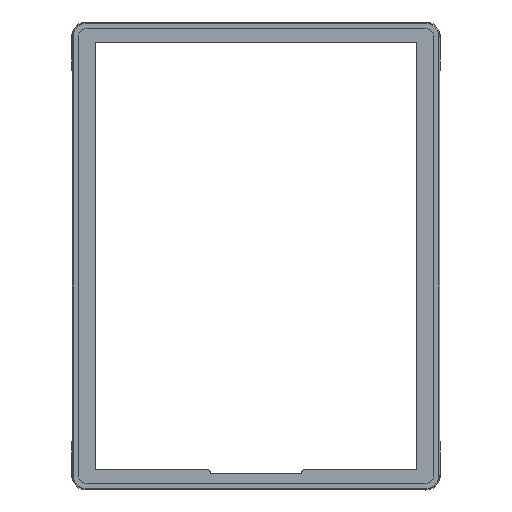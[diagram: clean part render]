
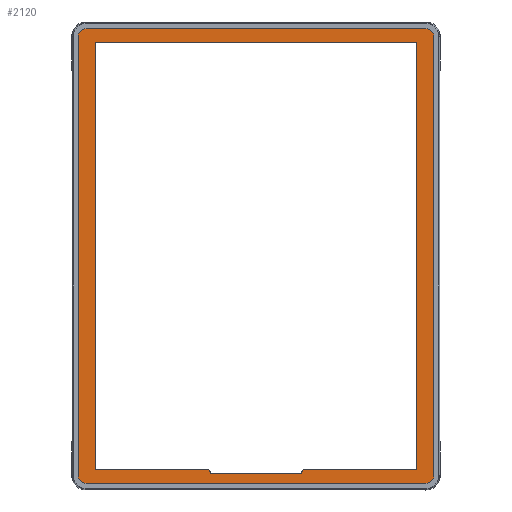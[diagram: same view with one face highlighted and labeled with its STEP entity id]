
A CAD part, top view. The second image highlights one B-rep face of the part: STEP entity #2120.
In plain terms, the highlighted planar face has unit normal (0, 0, 1).
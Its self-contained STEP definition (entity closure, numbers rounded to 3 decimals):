
#156=FACE_BOUND('',#6293,.T.);
#157=FACE_BOUND('',#6294,.T.);
#1074=CIRCLE('',#30037,6.275);
#1075=CIRCLE('',#30040,6.275);
#1076=CIRCLE('',#30041,6.275);
#1077=CIRCLE('',#30042,6.275);
#1078=CIRCLE('',#30043,3.012);
#1079=CIRCLE('',#30044,3.012);
#2120=ADVANCED_FACE('',(#156,#157),#3455,.F.);
#3455=PLANE('',#30045);
#6293=EDGE_LOOP('',(#12557,#12558,#12559,#12560,#12561,#12562,#12563,#12564));
#6294=EDGE_LOOP('',(#12565,#12566,#12567,#12568,#12569,#12570,#12571,#12572,
#12573,#12574));
#12557=ORIENTED_EDGE('',*,*,#21311,.T.);
#12558=ORIENTED_EDGE('',*,*,#21312,.T.);
#12559=ORIENTED_EDGE('',*,*,#21313,.T.);
#12560=ORIENTED_EDGE('',*,*,#21314,.T.);
#12561=ORIENTED_EDGE('',*,*,#21315,.T.);
#12562=ORIENTED_EDGE('',*,*,#21306,.T.);
#12563=ORIENTED_EDGE('',*,*,#21310,.T.);
#12564=ORIENTED_EDGE('',*,*,#21316,.T.);
#12565=ORIENTED_EDGE('',*,*,#21317,.T.);
#12566=ORIENTED_EDGE('',*,*,#21318,.T.);
#12567=ORIENTED_EDGE('',*,*,#21319,.T.);
#12568=ORIENTED_EDGE('',*,*,#21320,.T.);
#12569=ORIENTED_EDGE('',*,*,#21321,.T.);
#12570=ORIENTED_EDGE('',*,*,#21322,.T.);
#12571=ORIENTED_EDGE('',*,*,#21323,.F.);
#12572=ORIENTED_EDGE('',*,*,#21324,.F.);
#12573=ORIENTED_EDGE('',*,*,#21325,.F.);
#12574=ORIENTED_EDGE('',*,*,#21326,.T.);
#17561=VERTEX_POINT('',#45520);
#17562=VERTEX_POINT('',#45521);
#17563=VERTEX_POINT('',#45526);
#17564=VERTEX_POINT('',#45530);
#17565=VERTEX_POINT('',#45531);
#17566=VERTEX_POINT('',#45533);
#17567=VERTEX_POINT('',#45535);
#17568=VERTEX_POINT('',#45537);
#17569=VERTEX_POINT('',#45541);
#17570=VERTEX_POINT('',#45542);
#17571=VERTEX_POINT('',#45544);
#17572=VERTEX_POINT('',#45546);
#17573=VERTEX_POINT('',#45548);
#17574=VERTEX_POINT('',#45550);
#17575=VERTEX_POINT('',#45552);
#17576=VERTEX_POINT('',#45554);
#17577=VERTEX_POINT('',#45556);
#17578=VERTEX_POINT('',#45558);
#21306=EDGE_CURVE('',#17561,#17562,#1074,.T.);
#21310=EDGE_CURVE('',#17562,#17563,#24744,.T.);
#21311=EDGE_CURVE('',#17564,#17565,#24745,.T.);
#21312=EDGE_CURVE('',#17565,#17566,#1075,.T.);
#21313=EDGE_CURVE('',#17566,#17567,#24746,.T.);
#21314=EDGE_CURVE('',#17567,#17568,#1076,.T.);
#21315=EDGE_CURVE('',#17568,#17561,#24747,.T.);
#21316=EDGE_CURVE('',#17563,#17564,#1077,.T.);
#21317=EDGE_CURVE('',#17569,#17570,#24748,.T.);
#21318=EDGE_CURVE('',#17570,#17571,#24749,.T.);
#21319=EDGE_CURVE('',#17571,#17572,#24750,.T.);
#21320=EDGE_CURVE('',#17572,#17573,#24751,.T.);
#21321=EDGE_CURVE('',#17573,#17574,#24752,.T.);
#21322=EDGE_CURVE('',#17574,#17575,#1078,.T.);
#21323=EDGE_CURVE('',#17576,#17575,#24753,.T.);
#21324=EDGE_CURVE('',#17577,#17576,#24754,.T.);
#21325=EDGE_CURVE('',#17578,#17577,#24755,.T.);
#21326=EDGE_CURVE('',#17578,#17569,#1079,.T.);
#24744=LINE('',#45527,#28016);
#24745=LINE('',#45529,#28017);
#24746=LINE('',#45534,#28018);
#24747=LINE('',#45538,#28019);
#24748=LINE('',#45540,#28020);
#24749=LINE('',#45543,#28021);
#24750=LINE('',#45545,#28022);
#24751=LINE('',#45547,#28023);
#24752=LINE('',#45549,#28024);
#24753=LINE('',#45553,#28025);
#24754=LINE('',#45555,#28026);
#24755=LINE('',#45557,#28027);
#28016=VECTOR('',#36488,1.);
#28017=VECTOR('',#36491,1.);
#28018=VECTOR('',#36494,1.);
#28019=VECTOR('',#36497,1.);
#28020=VECTOR('',#36500,1.);
#28021=VECTOR('',#36501,1.);
#28022=VECTOR('',#36502,1.);
#28023=VECTOR('',#36503,1.);
#28024=VECTOR('',#36504,1.);
#28025=VECTOR('',#36507,1.);
#28026=VECTOR('',#36508,1.);
#28027=VECTOR('',#36509,1.);
#30037=AXIS2_PLACEMENT_3D('',#45519,#36481,#36482);
#30040=AXIS2_PLACEMENT_3D('',#45532,#36492,#36493);
#30041=AXIS2_PLACEMENT_3D('',#45536,#36495,#36496);
#30042=AXIS2_PLACEMENT_3D('',#45539,#36498,#36499);
#30043=AXIS2_PLACEMENT_3D('',#45551,#36505,#36506);
#30044=AXIS2_PLACEMENT_3D('',#45559,#36510,#36511);
#30045=AXIS2_PLACEMENT_3D('',#45560,#36512,#36513);
#36481=DIRECTION('',(0.,0.,1.));
#36482=DIRECTION('',(0.,1.,0.));
#36488=DIRECTION('',(0.,-1.,0.));
#36491=DIRECTION('',(1.,0.,0.));
#36492=DIRECTION('',(0.,0.,1.));
#36493=DIRECTION('',(0.,-1.,0.));
#36494=DIRECTION('',(0.,1.,0.));
#36495=DIRECTION('',(0.,0.,1.));
#36496=DIRECTION('',(1.,0.,0.));
#36497=DIRECTION('',(-1.,0.,0.));
#36498=DIRECTION('',(0.,0.,1.));
#36499=DIRECTION('',(-1.,0.,0.));
#36500=DIRECTION('',(-1.,0.,0.));
#36501=DIRECTION('',(0.,1.,0.));
#36502=DIRECTION('',(1.,0.,0.));
#36503=DIRECTION('',(0.,-1.,0.));
#36504=DIRECTION('',(-1.,0.,0.));
#36505=DIRECTION('',(0.,0.,1.));
#36506=DIRECTION('',(0.,1.,0.));
#36507=DIRECTION('',(0.,1.,0.));
#36508=DIRECTION('',(1.,0.,0.));
#36509=DIRECTION('',(0.,-1.,0.));
#36510=DIRECTION('',(0.,0.,1.));
#36511=DIRECTION('',(1.,0.,0.));
#36512=DIRECTION('',(0.,0.,-1.));
#36513=DIRECTION('',(0.,-1.,0.));
#45519=CARTESIAN_POINT('',(-130.723,168.911,6.194));
#45520=CARTESIAN_POINT('',(-130.723,175.186,6.194));
#45521=CARTESIAN_POINT('',(-136.998,168.911,6.194));
#45526=CARTESIAN_POINT('',(-136.998,-168.911,6.194));
#45527=CARTESIAN_POINT('',(-136.998,168.911,6.194));
#45529=CARTESIAN_POINT('',(-130.723,-175.186,6.194));
#45530=CARTESIAN_POINT('',(-130.723,-175.186,6.194));
#45531=CARTESIAN_POINT('',(130.723,-175.186,6.194));
#45532=CARTESIAN_POINT('',(130.723,-168.911,6.194));
#45533=CARTESIAN_POINT('',(136.998,-168.911,6.194));
#45534=CARTESIAN_POINT('',(136.998,-168.911,6.194));
#45535=CARTESIAN_POINT('',(136.998,168.911,6.194));
#45536=CARTESIAN_POINT('',(130.723,168.911,6.194));
#45537=CARTESIAN_POINT('',(130.723,175.186,6.194));
#45538=CARTESIAN_POINT('',(130.723,175.186,6.194));
#45539=CARTESIAN_POINT('',(-130.723,-168.911,6.194));
#45540=CARTESIAN_POINT('',(-38.152,-164.142,6.194));
#45541=CARTESIAN_POINT('',(-38.152,-164.142,6.194));
#45542=CARTESIAN_POINT('',(-123.694,-164.142,6.194));
#45543=CARTESIAN_POINT('',(-123.694,-164.142,6.194));
#45544=CARTESIAN_POINT('',(-123.694,164.292,6.194));
#45545=CARTESIAN_POINT('',(-123.694,164.292,6.194));
#45546=CARTESIAN_POINT('',(123.694,164.292,6.194));
#45547=CARTESIAN_POINT('',(123.694,164.292,6.194));
#45548=CARTESIAN_POINT('',(123.694,-164.142,6.194));
#45549=CARTESIAN_POINT('',(123.694,-164.142,6.194));
#45550=CARTESIAN_POINT('',(38.152,-164.142,6.194));
#45551=CARTESIAN_POINT('',(38.152,-167.154,6.194));
#45552=CARTESIAN_POINT('',(35.14,-167.154,6.194));
#45553=CARTESIAN_POINT('',(35.14,-167.264,6.194));
#45554=CARTESIAN_POINT('',(35.14,-167.264,6.194));
#45555=CARTESIAN_POINT('',(-35.14,-167.264,6.194));
#45556=CARTESIAN_POINT('',(-35.14,-167.264,6.194));
#45557=CARTESIAN_POINT('',(-35.14,-167.154,6.194));
#45558=CARTESIAN_POINT('',(-35.14,-167.154,6.194));
#45559=CARTESIAN_POINT('',(-38.152,-167.154,6.194));
#45560=CARTESIAN_POINT('',(-173.534,-207.063,6.194));
